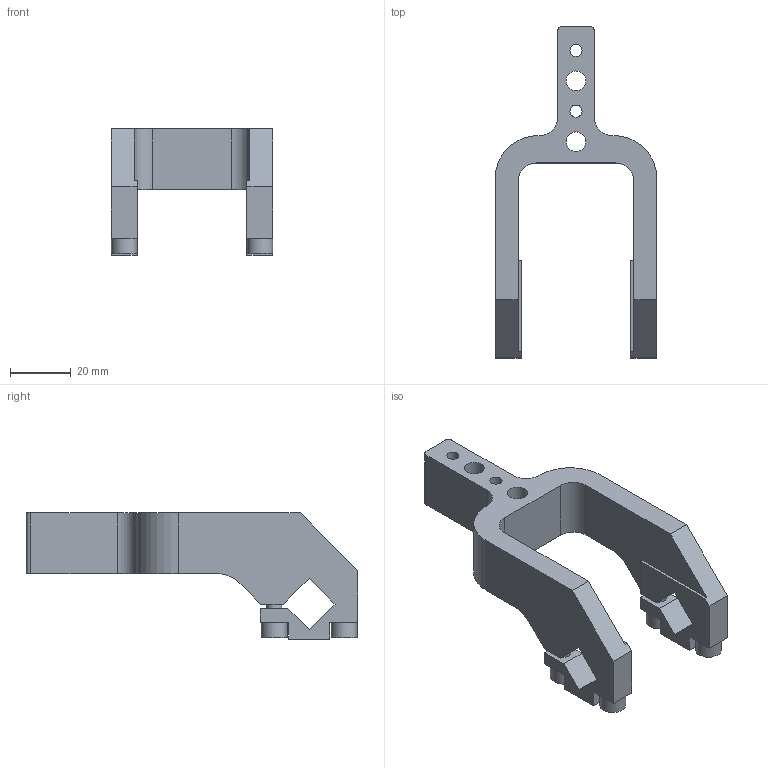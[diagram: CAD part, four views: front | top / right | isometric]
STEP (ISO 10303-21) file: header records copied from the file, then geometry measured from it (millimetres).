
FILE_DESCRIPTION(/* description */ (''),/* implementation_level */ '2;1');
FILE_NAME(/* name */ 'C:\PNX_VAULTFOLDER\Area Tecnica\Disegni\VARIE-3D\Componenti\7000\#12###\B12042.stp',/* time_stamp */ '2020-10-01T09:36:58+02:00',/* author */ ('donadda1'),/* organization */ ('Pneumax S.p.A.'),/* preprocessor_version */ 'ST-DEVELOPER v17.2',/* originating_system */ 'Autodesk Inventor 2019',/* authorisation */ '');
FILE_SCHEMA (('AUTOMOTIVE_DESIGN { 1 0 10303 214 3 1 1 }'));
Length unit declared in the file: millimetre
Products named in the file (1): B12042
Bounding box: 53 x 109 x 41.5 mm (x, y, z)
Volume: 41230.4 mm3; surface area: 16685.5 mm2
Topology: 1 solids, 1 shells, 76 faces, 208 edges, 134 vertices
Faces by surface type: plane 56, cylinder 20
Full cylindrical faces by diameter (mm): 4 x2, 5 x2, 6.5 x2, 8.5 x4
Entity records: 2449 total; most frequent: CARTESIAN_POINT 419, ORIENTED_EDGE 416, DIRECTION 406, EDGE_CURVE 208, LINE 164, VECTOR 164, VERTEX_POINT 134, AXIS2_PLACEMENT_3D 121
